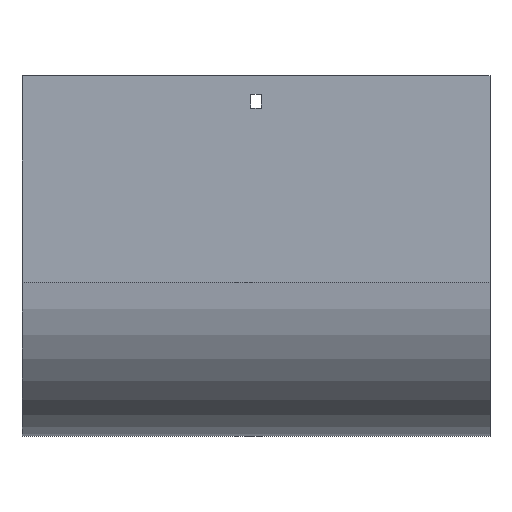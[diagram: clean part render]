
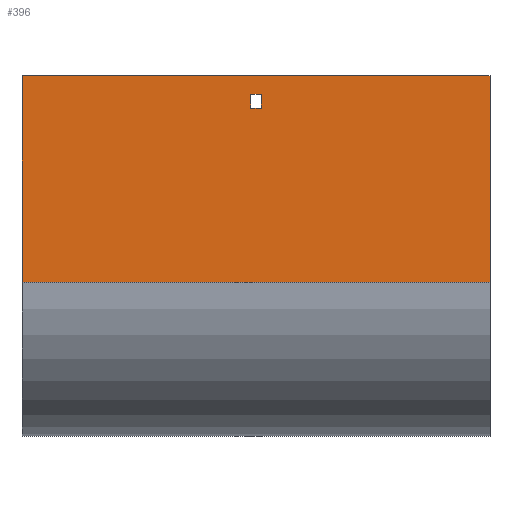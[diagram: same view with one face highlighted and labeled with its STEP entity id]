
A CAD part, front view. The second image highlights one B-rep face of the part: STEP entity #396.
In plain terms, the highlighted planar face has unit normal (0, -1, 0).
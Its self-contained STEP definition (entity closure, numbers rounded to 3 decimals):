
#1 = VERTEX_POINT ( 'NONE', #676 ) ;
#25 = CARTESIAN_POINT ( 'NONE',  ( 3.25, -104., -21. ) ) ;
#109 = CARTESIAN_POINT ( 'NONE',  ( 152., -104., 0. ) ) ;
#112 = VECTOR ( 'NONE', #726, 1000. ) ;
#114 = DIRECTION ( 'NONE',  ( 0., 0., -1. ) ) ;
#121 = CARTESIAN_POINT ( 'NONE',  ( -3.25, -104., -21. ) ) ;
#132 = VECTOR ( 'NONE', #980, 1000. ) ;
#254 = CARTESIAN_POINT ( 'NONE',  ( -3.25, -104., -21. ) ) ;
#282 = CARTESIAN_POINT ( 'NONE',  ( 3.25, -104., -21. ) ) ;
#298 = VECTOR ( 'NONE', #1396, 1000. ) ;
#302 = LINE ( 'NONE', #753, #1587 ) ;
#359 = FACE_BOUND ( 'NONE', #1935, .T. ) ;
#396 = ADVANCED_FACE ( 'NONE', ( #359, #960 ), #819, .F. ) ;
#406 = CARTESIAN_POINT ( 'NONE',  ( 152., -104., -134. ) ) ;
#436 = EDGE_CURVE ( 'NONE', #683, #896, #829, .T. ) ;
#508 = EDGE_CURVE ( 'NONE', #1601, #780, #1333, .T. ) ;
#518 = ORIENTED_EDGE ( 'NONE', *, *, #1613, .T. ) ;
#527 = AXIS2_PLACEMENT_3D ( 'NONE', #1232, #808, #1411 ) ;
#528 = DIRECTION ( 'NONE',  ( 0., 0., -1. ) ) ;
#588 = EDGE_CURVE ( 'NONE', #999, #1, #1761, .T. ) ;
#607 = ORIENTED_EDGE ( 'NONE', *, *, #588, .T. ) ;
#616 = CARTESIAN_POINT ( 'NONE',  ( -3.25, -104., -12. ) ) ;
#624 = VECTOR ( 'NONE', #528, 1000. ) ;
#670 = VERTEX_POINT ( 'NONE', #109 ) ;
#676 = CARTESIAN_POINT ( 'NONE',  ( -3.25, -104., -12. ) ) ;
#683 = VERTEX_POINT ( 'NONE', #1466 ) ;
#684 = CARTESIAN_POINT ( 'NONE',  ( -152., -104., -134. ) ) ;
#726 = DIRECTION ( 'NONE',  ( 0., 0., -1. ) ) ;
#753 = CARTESIAN_POINT ( 'NONE',  ( 152., -104., -134. ) ) ;
#780 = VERTEX_POINT ( 'NONE', #25 ) ;
#808 = DIRECTION ( 'NONE',  ( 0., 1., 0. ) ) ;
#819 = PLANE ( 'NONE',  #527 ) ;
#820 = VECTOR ( 'NONE', #114, 1000. ) ;
#829 = LINE ( 'NONE', #852, #624 ) ;
#852 = CARTESIAN_POINT ( 'NONE',  ( -152., -104., -134. ) ) ;
#857 = CARTESIAN_POINT ( 'NONE',  ( 152., -104., -134. ) ) ;
#896 = VERTEX_POINT ( 'NONE', #684 ) ;
#959 = CARTESIAN_POINT ( 'NONE',  ( -3.25, -104., -21. ) ) ;
#960 = FACE_OUTER_BOUND ( 'NONE', #1004, .T. ) ;
#965 = EDGE_CURVE ( 'NONE', #670, #1811, #1639, .T. ) ;
#980 = DIRECTION ( 'NONE',  ( -1., 0., 0. ) ) ;
#997 = ORIENTED_EDGE ( 'NONE', *, *, #1890, .T. ) ;
#999 = VERTEX_POINT ( 'NONE', #254 ) ;
#1004 = EDGE_LOOP ( 'NONE', ( #1598, #1290, #1292, #518 ) ) ;
#1018 = DIRECTION ( 'NONE',  ( 0., 0., 1. ) ) ;
#1074 = DIRECTION ( 'NONE',  ( -1., 0., 0. ) ) ;
#1218 = DIRECTION ( 'NONE',  ( 1., 0., 0. ) ) ;
#1232 = CARTESIAN_POINT ( 'NONE',  ( 152., -104., -134. ) ) ;
#1252 = LINE ( 'NONE', #1725, #132 ) ;
#1282 = VECTOR ( 'NONE', #1018, 1000. ) ;
#1290 = ORIENTED_EDGE ( 'NONE', *, *, #1934, .F. ) ;
#1292 = ORIENTED_EDGE ( 'NONE', *, *, #965, .F. ) ;
#1333 = LINE ( 'NONE', #282, #820 ) ;
#1396 = DIRECTION ( 'NONE',  ( -1., 0., 0. ) ) ;
#1411 = DIRECTION ( 'NONE',  ( 0., 0., 1. ) ) ;
#1425 = LINE ( 'NONE', #959, #298 ) ;
#1466 = CARTESIAN_POINT ( 'NONE',  ( -152., -104., 0. ) ) ;
#1515 = ORIENTED_EDGE ( 'NONE', *, *, #508, .T. ) ;
#1587 = VECTOR ( 'NONE', #1074, 1000. ) ;
#1598 = ORIENTED_EDGE ( 'NONE', *, *, #436, .T. ) ;
#1601 = VERTEX_POINT ( 'NONE', #1868 ) ;
#1604 = ORIENTED_EDGE ( 'NONE', *, *, #1694, .T. ) ;
#1613 = EDGE_CURVE ( 'NONE', #670, #683, #1252, .T. ) ;
#1639 = LINE ( 'NONE', #857, #112 ) ;
#1672 = LINE ( 'NONE', #616, #1893 ) ;
#1694 = EDGE_CURVE ( 'NONE', #780, #999, #1425, .T. ) ;
#1725 = CARTESIAN_POINT ( 'NONE',  ( 152., -104., 0. ) ) ;
#1761 = LINE ( 'NONE', #121, #1282 ) ;
#1811 = VERTEX_POINT ( 'NONE', #406 ) ;
#1868 = CARTESIAN_POINT ( 'NONE',  ( 3.25, -104., -12. ) ) ;
#1890 = EDGE_CURVE ( 'NONE', #1, #1601, #1672, .T. ) ;
#1893 = VECTOR ( 'NONE', #1218, 1000. ) ;
#1934 = EDGE_CURVE ( 'NONE', #1811, #896, #302, .T. ) ;
#1935 = EDGE_LOOP ( 'NONE', ( #1604, #607, #997, #1515 ) ) ;
